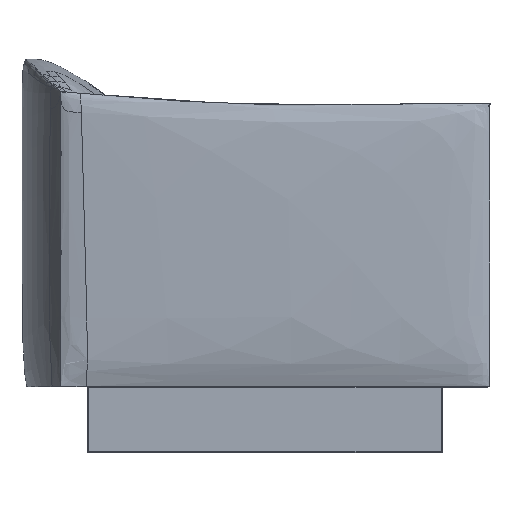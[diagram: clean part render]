
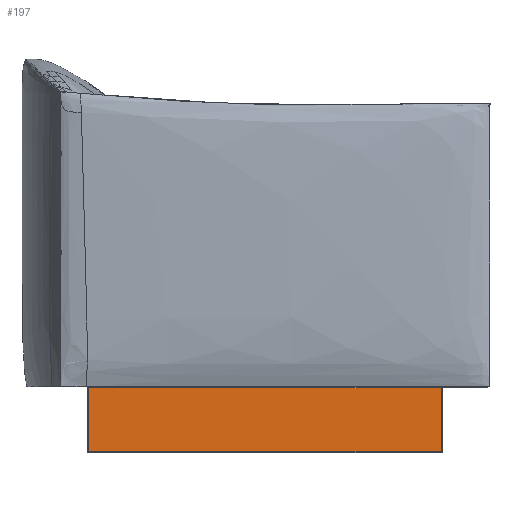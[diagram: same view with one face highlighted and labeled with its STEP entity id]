
A CAD part, left-side view. The second image highlights one B-rep face of the part: STEP entity #197.
In plain terms, the highlighted planar face has unit normal (-1, 0, 0).
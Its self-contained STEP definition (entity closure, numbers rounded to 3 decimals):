
#197=ADVANCED_FACE('',(#405),#2541,.T.);
#405=FACE_OUTER_BOUND('',#613,.T.);
#613=EDGE_LOOP('',(#1291,#1292,#1293,#1294));
#1291=ORIENTED_EDGE('',*,*,#1995,.T.);
#1292=ORIENTED_EDGE('',*,*,#1998,.F.);
#1293=ORIENTED_EDGE('',*,*,#1997,.F.);
#1294=ORIENTED_EDGE('',*,*,#1996,.T.);
#1995=EDGE_CURVE('',#2387,#2388,#2992,.T.);
#1996=EDGE_CURVE('',#2389,#2387,#2993,.T.);
#1997=EDGE_CURVE('',#2389,#2390,#2994,.T.);
#1998=EDGE_CURVE('',#2390,#2388,#2995,.T.);
#2387=VERTEX_POINT('',#16022);
#2388=VERTEX_POINT('',#16023);
#2389=VERTEX_POINT('',#16024);
#2390=VERTEX_POINT('',#16025);
#2541=PLANE('',#3293);
#2992=B_SPLINE_CURVE_WITH_KNOTS('',1,(#16058,#16059),.UNSPECIFIED.,.F.,
 .F.,(2,2),(2.,604.403),.UNSPECIFIED.);
#2993=B_SPLINE_CURVE_WITH_KNOTS('',1,(#16060,#16061),.UNSPECIFIED.,.F.,
 .F.,(2,2),(2.,111.3),.UNSPECIFIED.);
#2994=B_SPLINE_CURVE_WITH_KNOTS('',1,(#16062,#16063),.UNSPECIFIED.,.F.,
 .F.,(2,2),(2.,604.403),.UNSPECIFIED.);
#2995=B_SPLINE_CURVE_WITH_KNOTS('',1,(#16064,#16065),.UNSPECIFIED.,.F.,
 .F.,(2,2),(2.,111.3),.UNSPECIFIED.);
#3293=AXIS2_PLACEMENT_3D('',#15848,#3359,$);
#3359=DIRECTION('',(-1.,0.,0.));
#15848=CARTESIAN_POINT('',(54053.444,-271.597,0.));
#16022=CARTESIAN_POINT('',(54053.444,-273.597,2.));
#16023=CARTESIAN_POINT('',(54053.444,-876.,2.));
#16024=CARTESIAN_POINT('',(54053.444,-273.597,111.3));
#16025=CARTESIAN_POINT('',(54053.444,-876.,111.3));
#16058=CARTESIAN_POINT('',(54053.444,-273.597,2.));
#16059=CARTESIAN_POINT('',(54053.444,-876.,2.));
#16060=CARTESIAN_POINT('',(54053.444,-273.597,111.3));
#16061=CARTESIAN_POINT('',(54053.444,-273.597,2.));
#16062=CARTESIAN_POINT('',(54053.444,-273.597,111.3));
#16063=CARTESIAN_POINT('',(54053.444,-876.,111.3));
#16064=CARTESIAN_POINT('',(54053.444,-876.,111.3));
#16065=CARTESIAN_POINT('',(54053.444,-876.,2.));
